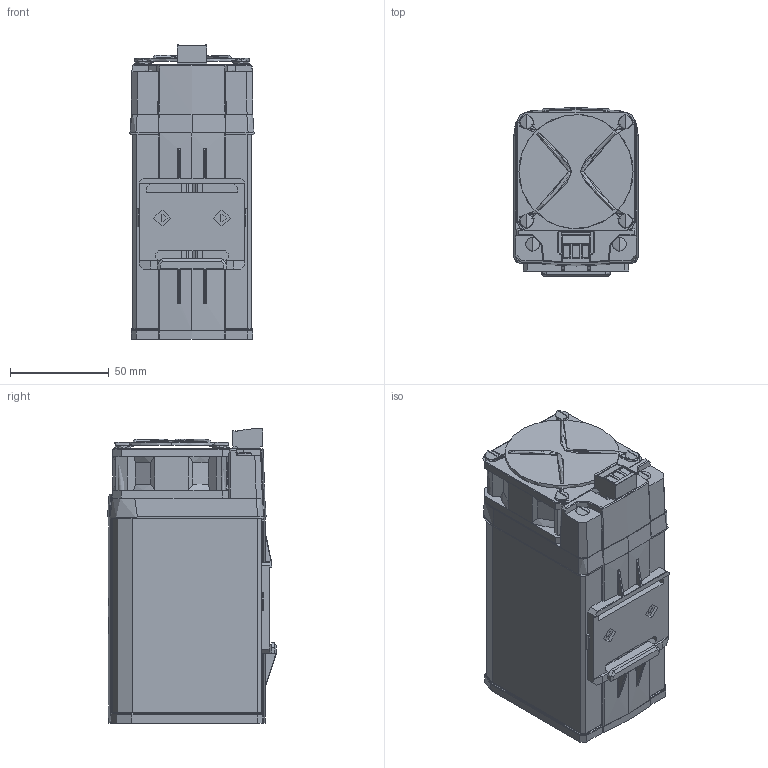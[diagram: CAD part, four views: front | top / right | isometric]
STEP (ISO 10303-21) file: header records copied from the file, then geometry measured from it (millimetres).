
FILE_DESCRIPTION(/* description */ (''),/* implementation_level */ '2;1');
FILE_NAME(/* name */ 'HVPS200THP-300(X)-1',/* time_stamp */ '2026-02-06T08:47:14+01:00',/* author */ (''),/* organization */ (''),/* preprocessor_version */ 'ST-DEVELOPER v16.5',/* originating_system */ 'Rhino 7.38',/* authorisation */ '');
FILE_SCHEMA (('AUTOMOTIVE_DESIGN'));
Length unit declared in the file: millimetre
Products named in the file (17): Document; HVPS200THP-300(X)-1; Profilo dissipatore deformato_Lung.100mm semplificato; 60N_semplificata; Vite ST3.5x38_semplificata; Placchetta posteriore_Placchetta posteriore semplificata; Blocco 02; Vite ST3.5_semplificata; DT-04535DSI_Default semplificata; DT-04687DSI_Default semplificata; Blocco 01; DT-04539DSI_Semplificata; 2EDGKF-5.0-03P-04_semplificata; Placchetta frontale_logo + Fandis semplificata; Copertura PLASTICA_Lunghezza L 100 mm semplificata; Tappo Plastico di estremità_tappo semplificato coperture plastich
e; Copertura PLASTICA_lato opposto semplificata
Assembly tree (24 placements, depth 4):
  Document
    HVPS200THP-300(X)-1
      Profilo dissipatore deformato_Lung.100mm semplificato
      60N_semplificata
      Vite ST3.5x38_semplificata  x6
      Placchetta posteriore_Placchetta posteriore semplificata
        Blocco 02
      Vite ST3.5_semplificata  x4
      DT-04535DSI_Default semplificata
      DT-04687DSI_Default semplificata
        Blocco 01
      DT-04539DSI_Semplificata
      2EDGKF-5.0-03P-04_semplificata
      Placchetta frontale_logo + Fandis semplificata
      Copertura PLASTICA_Lunghezza L 100 mm semplificata
      Tappo Plastico di estremità_tappo semplificato coperture plastich
e
      Copertura PLASTICA_lato opposto semplificata
Bounding box: 62.7 x 85.32 x 148.59 mm (x, y, z)
Volume: 627426.6 mm3; surface area: 136866 mm2
Topology: 32 solids, 32 shells, 1364 faces, 3593 edges, 2336 vertices
Faces by surface type: plane 611, bspline 382, cylinder 371
Entity records: 62627 total; most frequent: CARTESIAN_POINT 38724, ORIENTED_EDGE 6994, EDGE_CURVE 3497, B_SPLINE_CURVE_WITH_KNOTS 2327, VERTEX_POINT 2280, EDGE_LOOP 1403, ADVANCED_FACE 1308, FACE_OUTER_BOUND 1308
